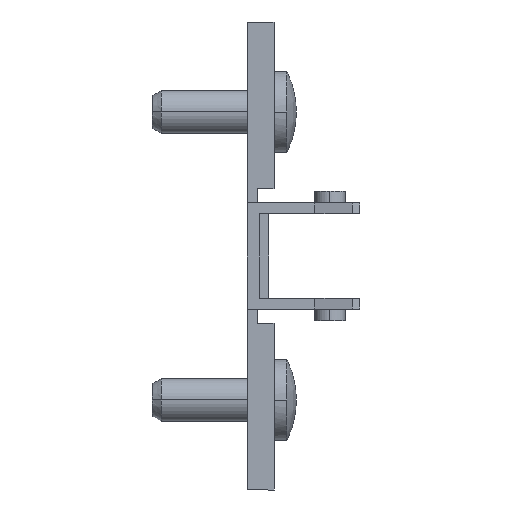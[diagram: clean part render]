
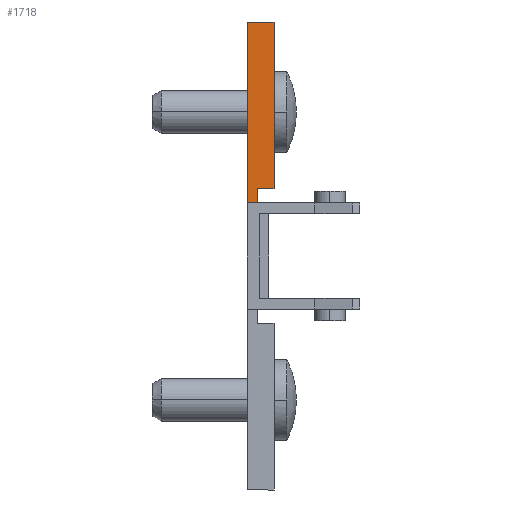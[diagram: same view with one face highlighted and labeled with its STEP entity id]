
A CAD part, front view. The second image highlights one B-rep face of the part: STEP entity #1718.
In plain terms, the highlighted planar face has unit normal (0, -1, 0).
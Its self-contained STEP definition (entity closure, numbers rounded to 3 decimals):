
#113 = VERTEX_POINT ( 'NONE', #293 ) ;
#172 = VERTEX_POINT ( 'NONE', #358 ) ;
#175 = VERTEX_POINT ( 'NONE', #355 ) ;
#192 = VERTEX_POINT ( 'NONE', #338 ) ;
#219 = VERTEX_POINT ( 'NONE', #402 ) ;
#272 = VERTEX_POINT ( 'NONE', #1245 ) ;
#293 = CARTESIAN_POINT ( 'NONE',  ( 0., -9., 26. ) ) ;
#338 = CARTESIAN_POINT ( 'NONE',  ( 3., -9., 7.5 ) ) ;
#355 = CARTESIAN_POINT ( 'NONE',  ( 1.2, -9., 5.9 ) ) ;
#358 = CARTESIAN_POINT ( 'NONE',  ( 0., -9., 5.9 ) ) ;
#402 = CARTESIAN_POINT ( 'NONE',  ( 3., -9., 26. ) ) ;
#437 = VECTOR ( 'NONE', #2552, 1000. ) ;
#442 = LINE ( 'NONE', #2523, #437 ) ;
#449 = VECTOR ( 'NONE', #2544, 1000. ) ;
#457 = LINE ( 'NONE', #2493, #449 ) ;
#480 = VECTOR ( 'NONE', #2508, 1000. ) ;
#481 = LINE ( 'NONE', #2511, #480 ) ;
#488 = LINE ( 'NONE', #2525, #493 ) ;
#493 = VECTOR ( 'NONE', #2522, 1000. ) ;
#519 = VECTOR ( 'NONE', #2450, 1000. ) ;
#520 = LINE ( 'NONE', #2449, #519 ) ;
#596 = VECTOR ( 'NONE', #2412, 1000. ) ;
#597 = LINE ( 'NONE', #2411, #596 ) ;
#965 = EDGE_CURVE ( 'NONE', #219, #192, #597, .T. ) ;
#987 = AXIS2_PLACEMENT_3D ( 'NONE', #2709, #2703, #2702 ) ;
#1013 = EDGE_CURVE ( 'NONE', #175, #172, #520, .T. ) ;
#1051 = EDGE_CURVE ( 'NONE', #113, #219, #457, .T. ) ;
#1061 = EDGE_CURVE ( 'NONE', #272, #175, #488, .T. ) ;
#1066 = EDGE_CURVE ( 'NONE', #172, #113, #442, .T. ) ;
#1071 = EDGE_CURVE ( 'NONE', #192, #272, #481, .T. ) ;
#1245 = CARTESIAN_POINT ( 'NONE',  ( 1.2, -9., 7.5 ) ) ;
#1656 = EDGE_LOOP ( 'NONE', ( #3361, #3362, #3363, #3364, #3365, #3382 ) ) ;
#1718 = ADVANCED_FACE ( 'NONE', ( #1860 ), #2712, .F. ) ;
#1860 = FACE_OUTER_BOUND ( 'NONE', #1656, .T. ) ;
#2411 = CARTESIAN_POINT ( 'NONE',  ( 3., -9., 26. ) ) ;
#2412 = DIRECTION ( 'NONE',  ( 0., 0., -1. ) ) ;
#2449 = CARTESIAN_POINT ( 'NONE',  ( 0., -9., 5.9 ) ) ;
#2450 = DIRECTION ( 'NONE',  ( -1., 0., 0. ) ) ;
#2493 = CARTESIAN_POINT ( 'NONE',  ( 0., -9., 26. ) ) ;
#2508 = DIRECTION ( 'NONE',  ( -1., 0., 0. ) ) ;
#2511 = CARTESIAN_POINT ( 'NONE',  ( 3., -9., 7.5 ) ) ;
#2522 = DIRECTION ( 'NONE',  ( 0., 0., -1. ) ) ;
#2523 = CARTESIAN_POINT ( 'NONE',  ( 0., -9., 5. ) ) ;
#2525 = CARTESIAN_POINT ( 'NONE',  ( 1.2, -9., 7.5 ) ) ;
#2544 = DIRECTION ( 'NONE',  ( 1., 0., 0. ) ) ;
#2552 = DIRECTION ( 'NONE',  ( 0., 0., 1. ) ) ;
#2702 = DIRECTION ( 'NONE',  ( 0., 0., 1. ) ) ;
#2703 = DIRECTION ( 'NONE',  ( 0., 1., 0. ) ) ;
#2709 = CARTESIAN_POINT ( 'NONE',  ( 0., -9., 5. ) ) ;
#2712 = PLANE ( 'NONE',  #987 ) ;
#3361 = ORIENTED_EDGE ( 'NONE', *, *, #1066, .F. ) ;
#3362 = ORIENTED_EDGE ( 'NONE', *, *, #1013, .F. ) ;
#3363 = ORIENTED_EDGE ( 'NONE', *, *, #1061, .F. ) ;
#3364 = ORIENTED_EDGE ( 'NONE', *, *, #1071, .F. ) ;
#3365 = ORIENTED_EDGE ( 'NONE', *, *, #965, .F. ) ;
#3382 = ORIENTED_EDGE ( 'NONE', *, *, #1051, .F. ) ;
